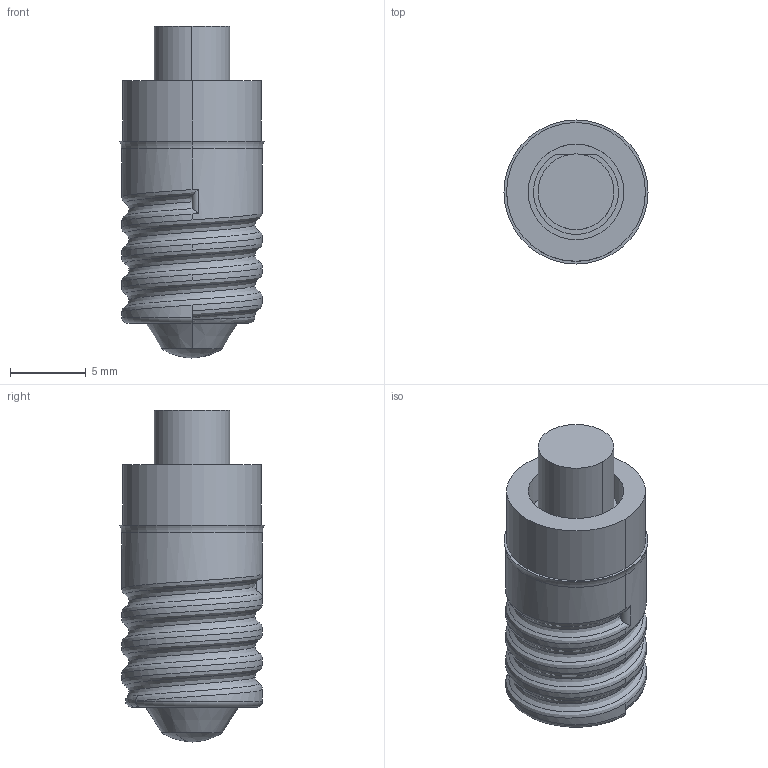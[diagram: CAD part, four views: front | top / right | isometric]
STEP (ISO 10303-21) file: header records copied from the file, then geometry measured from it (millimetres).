
FILE_DESCRIPTION (( 'STEP AP203' ), '1' );
FILE_NAME ('210 Series.STEP', '2016-08-03T09:02:13', ( '' ), ( '' ), 'SwSTEP 2.0', 'SolidWorks 2016', '' );
FILE_SCHEMA (( 'CONFIG_CONTROL_DESIGN' ));
Length unit declared in the file: millimetre
Products named in the file (4): Solder1_4mm Diam; 210 Series Housing; LED_501_1.5mmLEGS; 210 Series
Assembly tree (3 placements, depth 2):
  210 Series
    210 Series Housing
    LED_501_1.5mmLEGS
    Solder1_4mm Diam
Bounding box: 9.5 x 9.5 x 21.9 mm (x, y, z)
Volume: 1070 mm3; surface area: 898.9 mm2
Topology: 3 solids, 3 shells, 67 faces, 149 edges, 94 vertices
Faces by surface type: plane 32, cylinder 21, bspline 5, sphere 4, torus 3, cone 2
Entity records: 6248 total; most frequent: CARTESIAN_POINT 4395, DIRECTION 300, ORIENTED_EDGE 296, EDGE_CURVE 148, AXIS2_PLACEMENT_3D 115, VERTEX_POINT 94, EDGE_LOOP 74, LINE 70
